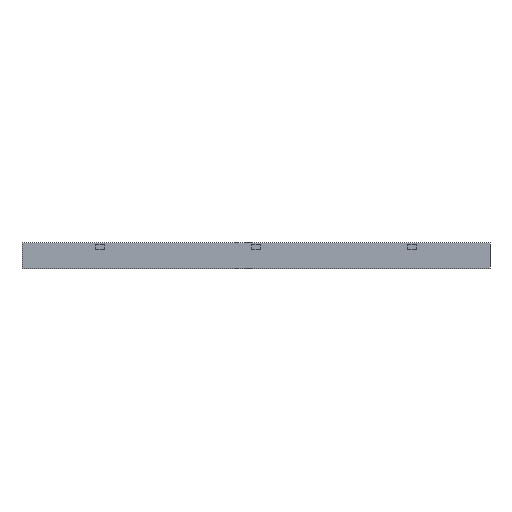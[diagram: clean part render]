
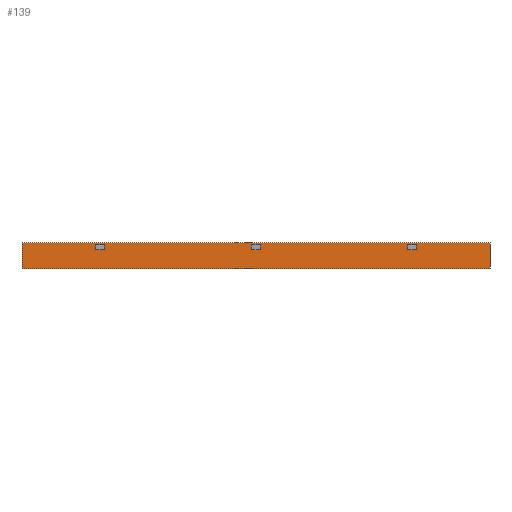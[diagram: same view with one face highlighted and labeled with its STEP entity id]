
A CAD part, left-side view. The second image highlights one B-rep face of the part: STEP entity #139.
In plain terms, the highlighted planar face has unit normal (-1, 0, 0).
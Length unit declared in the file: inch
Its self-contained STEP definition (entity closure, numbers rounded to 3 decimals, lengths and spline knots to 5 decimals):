
#17=FACE_BOUND('',#451,.T.);
#18=FACE_BOUND('',#452,.T.);
#19=FACE_BOUND('',#453,.T.);
#139=ADVANCED_FACE('',(#293,#17,#18,#19),#2609,.T.);
#293=FACE_OUTER_BOUND('',#450,.T.);
#450=EDGE_LOOP('',(#892,#893,#894,#895));
#451=EDGE_LOOP('',(#896,#897,#898,#899));
#452=EDGE_LOOP('',(#900,#901,#902,#903));
#453=EDGE_LOOP('',(#904,#905,#906,#907));
#892=ORIENTED_EDGE('',*,*,#1636,.T.);
#893=ORIENTED_EDGE('',*,*,#1637,.T.);
#894=ORIENTED_EDGE('',*,*,#1638,.T.);
#895=ORIENTED_EDGE('',*,*,#1639,.T.);
#896=ORIENTED_EDGE('',*,*,#1486,.F.);
#897=ORIENTED_EDGE('',*,*,#1508,.F.);
#898=ORIENTED_EDGE('',*,*,#1465,.F.);
#899=ORIENTED_EDGE('',*,*,#1440,.F.);
#900=ORIENTED_EDGE('',*,*,#1594,.F.);
#901=ORIENTED_EDGE('',*,*,#1616,.F.);
#902=ORIENTED_EDGE('',*,*,#1573,.F.);
#903=ORIENTED_EDGE('',*,*,#1548,.F.);
#904=ORIENTED_EDGE('',*,*,#1643,.T.);
#905=ORIENTED_EDGE('',*,*,#1640,.T.);
#906=ORIENTED_EDGE('',*,*,#1641,.T.);
#907=ORIENTED_EDGE('',*,*,#1642,.T.);
#1440=EDGE_CURVE('',#2280,#2281,#1860,.T.);
#1465=EDGE_CURVE('',#2281,#2298,#1885,.T.);
#1486=EDGE_CURVE('',#2312,#2280,#1906,.T.);
#1508=EDGE_CURVE('',#2298,#2312,#1928,.T.);
#1548=EDGE_CURVE('',#2352,#2353,#1968,.T.);
#1573=EDGE_CURVE('',#2353,#2370,#1993,.T.);
#1594=EDGE_CURVE('',#2384,#2352,#2014,.T.);
#1616=EDGE_CURVE('',#2370,#2384,#2036,.T.);
#1636=EDGE_CURVE('',#2404,#2405,#2056,.T.);
#1637=EDGE_CURVE('',#2405,#2406,#2057,.T.);
#1638=EDGE_CURVE('',#2406,#2407,#2058,.T.);
#1639=EDGE_CURVE('',#2407,#2404,#2059,.T.);
#1640=EDGE_CURVE('',#2408,#2409,#2060,.T.);
#1641=EDGE_CURVE('',#2409,#2410,#2061,.T.);
#1642=EDGE_CURVE('',#2410,#2411,#2062,.T.);
#1643=EDGE_CURVE('',#2411,#2408,#2063,.T.);
#1860=B_SPLINE_CURVE_WITH_KNOTS('',1,(#3581,#3582),.UNSPECIFIED.,.F.,.F.,
(2,2),(0.,1.25),.UNSPECIFIED.);
#1885=B_SPLINE_CURVE_WITH_KNOTS('',1,(#3631,#3632),.UNSPECIFIED.,.F.,.F.,
(2,2),(0.,0.75),.UNSPECIFIED.);
#1906=B_SPLINE_CURVE_WITH_KNOTS('',1,(#3673,#3674),.UNSPECIFIED.,.F.,.F.,
(2,2),(0.,0.75),.UNSPECIFIED.);
#1928=B_SPLINE_CURVE_WITH_KNOTS('',1,(#3717,#3718),.UNSPECIFIED.,.F.,.F.,
(2,2),(0.,1.25),.UNSPECIFIED.);
#1968=B_SPLINE_CURVE_WITH_KNOTS('',1,(#3797,#3798),.UNSPECIFIED.,.F.,.F.,
(2,2),(0.,1.25),.UNSPECIFIED.);
#1993=B_SPLINE_CURVE_WITH_KNOTS('',1,(#3847,#3848),.UNSPECIFIED.,.F.,.F.,
(2,2),(0.,0.75),.UNSPECIFIED.);
#2014=B_SPLINE_CURVE_WITH_KNOTS('',1,(#3889,#3890),.UNSPECIFIED.,.F.,.F.,
(2,2),(0.,0.75),.UNSPECIFIED.);
#2036=B_SPLINE_CURVE_WITH_KNOTS('',1,(#3933,#3934),.UNSPECIFIED.,.F.,.F.,
(2,2),(0.,1.25),.UNSPECIFIED.);
#2056=B_SPLINE_CURVE_WITH_KNOTS('',1,(#3973,#3974),.UNSPECIFIED.,.F.,.F.,
(2,2),(0.,72.),.UNSPECIFIED.);
#2057=B_SPLINE_CURVE_WITH_KNOTS('',1,(#3975,#3976),.UNSPECIFIED.,.F.,.F.,
(2,2),(0.,4.),.UNSPECIFIED.);
#2058=B_SPLINE_CURVE_WITH_KNOTS('',1,(#3977,#3978),.UNSPECIFIED.,.F.,.F.,
(2,2),(0.,72.),.UNSPECIFIED.);
#2059=B_SPLINE_CURVE_WITH_KNOTS('',1,(#3979,#3980),.UNSPECIFIED.,.F.,.F.,
(2,2),(0.,4.),.UNSPECIFIED.);
#2060=B_SPLINE_CURVE_WITH_KNOTS('',1,(#3981,#3982),.UNSPECIFIED.,.F.,.F.,
(2,2),(0.,1.25),.UNSPECIFIED.);
#2061=B_SPLINE_CURVE_WITH_KNOTS('',1,(#3983,#3984),.UNSPECIFIED.,.F.,.F.,
(2,2),(0.,0.75),.UNSPECIFIED.);
#2062=B_SPLINE_CURVE_WITH_KNOTS('',1,(#3985,#3986),.UNSPECIFIED.,.F.,.F.,
(2,2),(0.,1.25),.UNSPECIFIED.);
#2063=B_SPLINE_CURVE_WITH_KNOTS('',1,(#3987,#3988),.UNSPECIFIED.,.F.,.F.,
(2,2),(0.,0.75),.UNSPECIFIED.);
#2280=VERTEX_POINT('',#3273);
#2281=VERTEX_POINT('',#3274);
#2298=VERTEX_POINT('',#3291);
#2312=VERTEX_POINT('',#3305);
#2352=VERTEX_POINT('',#3345);
#2353=VERTEX_POINT('',#3346);
#2370=VERTEX_POINT('',#3363);
#2384=VERTEX_POINT('',#3377);
#2404=VERTEX_POINT('',#3397);
#2405=VERTEX_POINT('',#3398);
#2406=VERTEX_POINT('',#3399);
#2407=VERTEX_POINT('',#3400);
#2408=VERTEX_POINT('',#3401);
#2409=VERTEX_POINT('',#3402);
#2410=VERTEX_POINT('',#3403);
#2411=VERTEX_POINT('',#3404);
#2609=PLANE('',#2854);
#2854=AXIS2_PLACEMENT_3D('',#3168,#3011,$);
#3011=DIRECTION('',(-1.,0.,0.));
#3168=CARTESIAN_POINT('',(-20.25,43.20472,2.40472));
#3273=CARTESIAN_POINT('',(-20.25,23.375,1.75));
#3274=CARTESIAN_POINT('',(-20.25,24.625,1.75));
#3291=CARTESIAN_POINT('',(-20.25,24.625,1.));
#3305=CARTESIAN_POINT('',(-20.25,23.375,1.));
#3345=CARTESIAN_POINT('',(-20.25,-0.625,1.75));
#3346=CARTESIAN_POINT('',(-20.25,0.625,1.75));
#3363=CARTESIAN_POINT('',(-20.25,0.625,1.));
#3377=CARTESIAN_POINT('',(-20.25,-0.625,1.));
#3397=CARTESIAN_POINT('',(-20.25,36.,-2.));
#3398=CARTESIAN_POINT('',(-20.25,-36.,-2.));
#3399=CARTESIAN_POINT('',(-20.25,-36.,2.));
#3400=CARTESIAN_POINT('',(-20.25,36.,2.));
#3401=CARTESIAN_POINT('',(-20.25,-23.375,1.75));
#3402=CARTESIAN_POINT('',(-20.25,-24.625,1.75));
#3403=CARTESIAN_POINT('',(-20.25,-24.625,1.));
#3404=CARTESIAN_POINT('',(-20.25,-23.375,1.));
#3581=CARTESIAN_POINT('',(-20.25,23.375,1.75));
#3582=CARTESIAN_POINT('',(-20.25,24.625,1.75));
#3631=CARTESIAN_POINT('',(-20.25,24.625,1.75));
#3632=CARTESIAN_POINT('',(-20.25,24.625,1.));
#3673=CARTESIAN_POINT('',(-20.25,23.375,1.));
#3674=CARTESIAN_POINT('',(-20.25,23.375,1.75));
#3717=CARTESIAN_POINT('',(-20.25,24.625,1.));
#3718=CARTESIAN_POINT('',(-20.25,23.375,1.));
#3797=CARTESIAN_POINT('',(-20.25,-0.625,1.75));
#3798=CARTESIAN_POINT('',(-20.25,0.625,1.75));
#3847=CARTESIAN_POINT('',(-20.25,0.625,1.75));
#3848=CARTESIAN_POINT('',(-20.25,0.625,1.));
#3889=CARTESIAN_POINT('',(-20.25,-0.625,1.));
#3890=CARTESIAN_POINT('',(-20.25,-0.625,1.75));
#3933=CARTESIAN_POINT('',(-20.25,0.625,1.));
#3934=CARTESIAN_POINT('',(-20.25,-0.625,1.));
#3973=CARTESIAN_POINT('',(-20.25,36.,-2.));
#3974=CARTESIAN_POINT('',(-20.25,-36.,-2.));
#3975=CARTESIAN_POINT('',(-20.25,-36.,-2.));
#3976=CARTESIAN_POINT('',(-20.25,-36.,2.));
#3977=CARTESIAN_POINT('',(-20.25,-36.,2.));
#3978=CARTESIAN_POINT('',(-20.25,36.,2.));
#3979=CARTESIAN_POINT('',(-20.25,36.,2.));
#3980=CARTESIAN_POINT('',(-20.25,36.,-2.));
#3981=CARTESIAN_POINT('',(-20.25,-23.375,1.75));
#3982=CARTESIAN_POINT('',(-20.25,-24.625,1.75));
#3983=CARTESIAN_POINT('',(-20.25,-24.625,1.75));
#3984=CARTESIAN_POINT('',(-20.25,-24.625,1.));
#3985=CARTESIAN_POINT('',(-20.25,-24.625,1.));
#3986=CARTESIAN_POINT('',(-20.25,-23.375,1.));
#3987=CARTESIAN_POINT('',(-20.25,-23.375,1.));
#3988=CARTESIAN_POINT('',(-20.25,-23.375,1.75));
